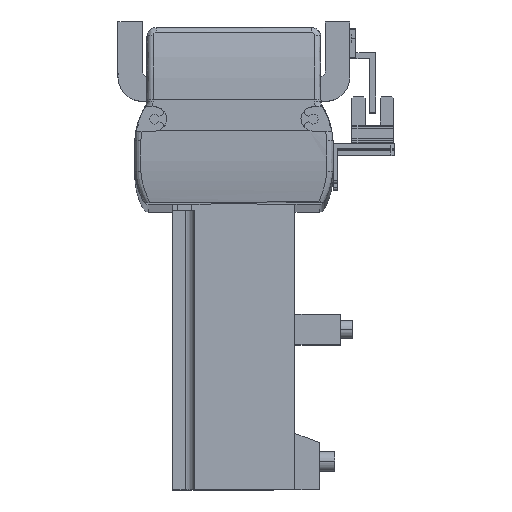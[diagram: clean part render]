
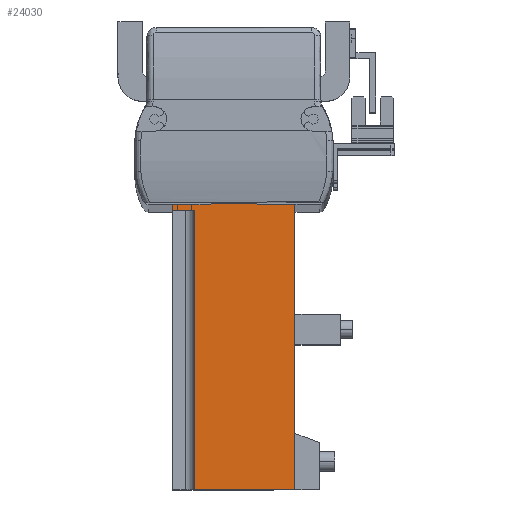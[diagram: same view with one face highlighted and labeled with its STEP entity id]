
A CAD part, top view. The second image highlights one B-rep face of the part: STEP entity #24030.
In plain terms, the highlighted planar face has unit normal (0, 0, 1).
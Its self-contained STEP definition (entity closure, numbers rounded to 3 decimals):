
#123 = CARTESIAN_POINT ( 'NONE',  ( -14.245, -18.665, 512. ) ) ;
#1867 = CARTESIAN_POINT ( 'NONE',  ( -14.245, -13.665, 512. ) ) ;
#2095 = FACE_OUTER_BOUND ( 'NONE', #37783, .T. ) ;
#2893 = LINE ( 'NONE', #22949, #15594 ) ;
#3414 = ORIENTED_EDGE ( 'NONE', *, *, #47818, .F. ) ;
#4064 = LINE ( 'NONE', #33888, #40980 ) ;
#5563 = VECTOR ( 'NONE', #51734, 1000. ) ;
#7299 = PLANE ( 'NONE',  #20317 ) ;
#7341 = CARTESIAN_POINT ( 'NONE',  ( -21.245, -13.665, 512. ) ) ;
#8359 = LINE ( 'NONE', #7341, #32501 ) ;
#8673 = CARTESIAN_POINT ( 'NONE',  ( -14.245, -110.165, 512. ) ) ;
#12825 = VERTEX_POINT ( 'NONE', #62213 ) ;
#13676 = CARTESIAN_POINT ( 'NONE',  ( -21.245, -13.665, 512. ) ) ;
#15594 = VECTOR ( 'NONE', #56717, 1000. ) ;
#16867 = DIRECTION ( 'NONE',  ( -1., 0., 0. ) ) ;
#17302 = ORIENTED_EDGE ( 'NONE', *, *, #43529, .F. ) ;
#18783 = CARTESIAN_POINT ( 'NONE',  ( -21.245, -13.665, 512. ) ) ;
#20317 = AXIS2_PLACEMENT_3D ( 'NONE', #40993, #45862, #16867 ) ;
#22949 = CARTESIAN_POINT ( 'NONE',  ( -21.245, -110.165, 512. ) ) ;
#23038 = VERTEX_POINT ( 'NONE', #31045 ) ;
#23656 = DIRECTION ( 'NONE',  ( -1., 0., 0. ) ) ;
#24030 = ADVANCED_FACE ( 'NONE', ( #2095 ), #7299, .F. ) ;
#26921 = ORIENTED_EDGE ( 'NONE', *, *, #41332, .F. ) ;
#28265 = VERTEX_POINT ( 'NONE', #8673 ) ;
#29797 = LINE ( 'NONE', #1867, #41096 ) ;
#30964 = DIRECTION ( 'NONE',  ( 0., 1., 0. ) ) ;
#31045 = CARTESIAN_POINT ( 'NONE',  ( 18.755, -110.165, 512. ) ) ;
#31151 = LINE ( 'NONE', #56571, #5563 ) ;
#31983 = VERTEX_POINT ( 'NONE', #123 ) ;
#32501 = VECTOR ( 'NONE', #55577, 1000. ) ;
#32930 = VECTOR ( 'NONE', #23656, 1000. ) ;
#33888 = CARTESIAN_POINT ( 'NONE',  ( -21.245, -18.665, 512. ) ) ;
#35688 = VERTEX_POINT ( 'NONE', #13676 ) ;
#37783 = EDGE_LOOP ( 'NONE', ( #26921, #61511, #17302, #49963, #3414, #43052 ) ) ;
#38741 = DIRECTION ( 'NONE',  ( -1., 0., 0. ) ) ;
#39418 = CARTESIAN_POINT ( 'NONE',  ( 18.755, -13.665, 512. ) ) ;
#40900 = EDGE_CURVE ( 'NONE', #31983, #12825, #4064, .T. ) ;
#40980 = VECTOR ( 'NONE', #38741, 1000. ) ;
#40993 = CARTESIAN_POINT ( 'NONE',  ( -21.245, -13.665, 512. ) ) ;
#41096 = VECTOR ( 'NONE', #30964, 1000. ) ;
#41332 = EDGE_CURVE ( 'NONE', #58696, #23038, #31151, .T. ) ;
#43052 = ORIENTED_EDGE ( 'NONE', *, *, #61669, .F. ) ;
#43529 = EDGE_CURVE ( 'NONE', #12825, #35688, #8359, .T. ) ;
#45862 = DIRECTION ( 'NONE',  ( 0., 0., -1. ) ) ;
#47818 = EDGE_CURVE ( 'NONE', #28265, #31983, #29797, .T. ) ;
#49963 = ORIENTED_EDGE ( 'NONE', *, *, #40900, .F. ) ;
#51734 = DIRECTION ( 'NONE',  ( 0., -1., 0. ) ) ;
#55577 = DIRECTION ( 'NONE',  ( 0., 1., 0. ) ) ;
#55895 = EDGE_CURVE ( 'NONE', #58696, #35688, #58544, .T. ) ;
#56571 = CARTESIAN_POINT ( 'NONE',  ( 18.755, -13.665, 512. ) ) ;
#56717 = DIRECTION ( 'NONE',  ( -1., 0., 0. ) ) ;
#58544 = LINE ( 'NONE', #18783, #32930 ) ;
#58696 = VERTEX_POINT ( 'NONE', #39418 ) ;
#61511 = ORIENTED_EDGE ( 'NONE', *, *, #55895, .T. ) ;
#61669 = EDGE_CURVE ( 'NONE', #23038, #28265, #2893, .T. ) ;
#62213 = CARTESIAN_POINT ( 'NONE',  ( -21.245, -18.665, 512. ) ) ;
